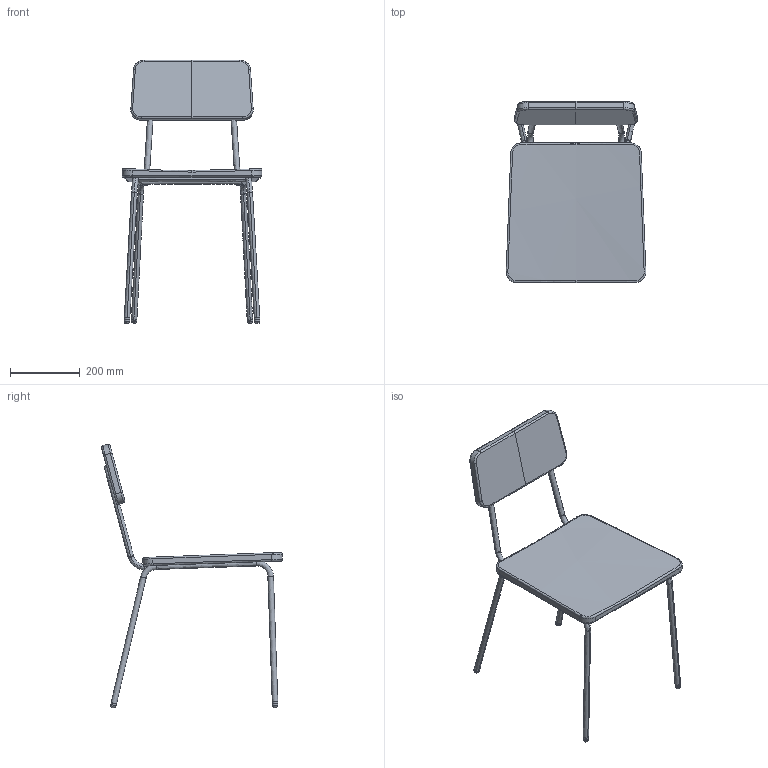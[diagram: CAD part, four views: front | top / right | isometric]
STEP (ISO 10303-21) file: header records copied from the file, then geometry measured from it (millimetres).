
FILE_DESCRIPTION(/* description */ (''),/* implementation_level */ '2;1');
FILE_NAME(/* name */ 'KINOSH~1',/* time_stamp */ '2020-05-30T17:26:59+09:00',/* author */ (''),/* organization */ (''),/* preprocessor_version */ 'ST-DEVELOPER v15',/* originating_system */ '',/* authorisation */ '');
FILE_SCHEMA (('AUTOMOTIVE_DESIGN'));
Length unit declared in the file: millimetre
Products named in the file (1): Document
Bounding box: 399.96 x 518.14 x 755 mm (x, y, z)
Volume: 5070218 mm3; surface area: 673937 mm2
Topology: 4 solids, 7 shells, 152 faces, 370 edges, 218 vertices
Faces by surface type: bspline 145, plane 7
Entity records: 10376 total; most frequent: CARTESIAN_POINT 8494, ORIENTED_EDGE 688, EDGE_CURVE 362, VERTEX_POINT 218, ADVANCED_FACE 152, FACE_OUTER_BOUND 152, EDGE_LOOP 152, B_SPLINE_CURVE_WITH_KNOTS 88
